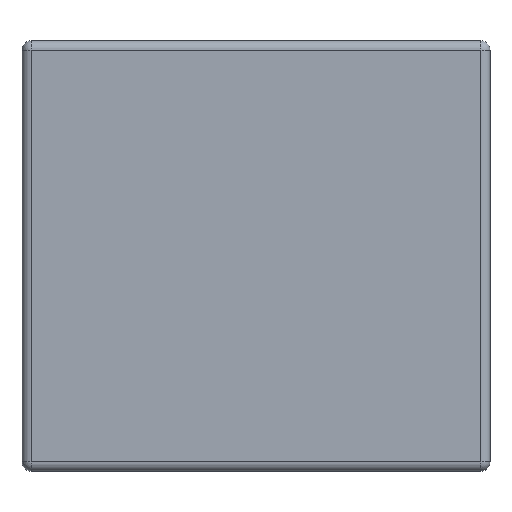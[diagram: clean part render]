
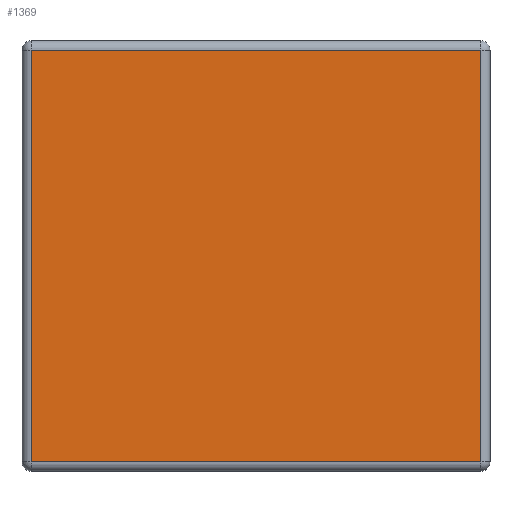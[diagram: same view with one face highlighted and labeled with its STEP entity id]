
A CAD part, front view. The second image highlights one B-rep face of the part: STEP entity #1369.
In plain terms, the highlighted planar face has unit normal (0, -1, 0).
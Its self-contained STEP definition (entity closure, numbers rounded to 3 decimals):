
#42=DIRECTION('',(-1.,0.,0.));
#43=VECTOR('',#42,24.);
#44=CARTESIAN_POINT('',(12.,0.,-11.));
#45=LINE('',#44,#43);
#305=DIRECTION('',(0.,0.,1.));
#306=VECTOR('',#305,22.);
#307=CARTESIAN_POINT('',(-12.,0.,-11.));
#308=LINE('',#307,#306);
#357=DIRECTION('',(1.,0.,0.));
#358=VECTOR('',#357,24.);
#359=CARTESIAN_POINT('',(-12.,0.,11.));
#360=LINE('',#359,#358);
#388=DIRECTION('',(0.,0.,-1.));
#389=VECTOR('',#388,22.);
#390=CARTESIAN_POINT('',(12.,0.,11.));
#391=LINE('',#390,#389);
#982=CARTESIAN_POINT('',(12.,0.,11.));
#983=CARTESIAN_POINT('',(12.,0.,-11.));
#984=VERTEX_POINT('',#982);
#985=VERTEX_POINT('',#983);
#986=CARTESIAN_POINT('',(-12.,0.,11.));
#987=VERTEX_POINT('',#986);
#988=CARTESIAN_POINT('',(-12.,0.,-11.));
#989=VERTEX_POINT('',#988);
#1358=CARTESIAN_POINT('',(0.,0.,0.));
#1359=DIRECTION('',(0.,1.,0.));
#1360=DIRECTION('',(0.,0.,1.));
#1361=AXIS2_PLACEMENT_3D('',#1358,#1359,#1360);
#1362=PLANE('',#1361);
#1363=ORIENTED_EDGE('',*,*,#1351,.T.);
#1364=ORIENTED_EDGE('',*,*,#1063,.T.);
#1365=ORIENTED_EDGE('',*,*,#1288,.T.);
#1366=ORIENTED_EDGE('',*,*,#1327,.T.);
#1367=EDGE_LOOP('',(#1363,#1364,#1365,#1366));
#1368=FACE_OUTER_BOUND('',#1367,.F.);
#1369=ADVANCED_FACE('',(#1368),#1362,.F.);
#1063=EDGE_CURVE('',#985,#989,#45,.T.);
#1288=EDGE_CURVE('',#989,#987,#308,.T.);
#1327=EDGE_CURVE('',#987,#984,#360,.T.);
#1351=EDGE_CURVE('',#984,#985,#391,.T.);
